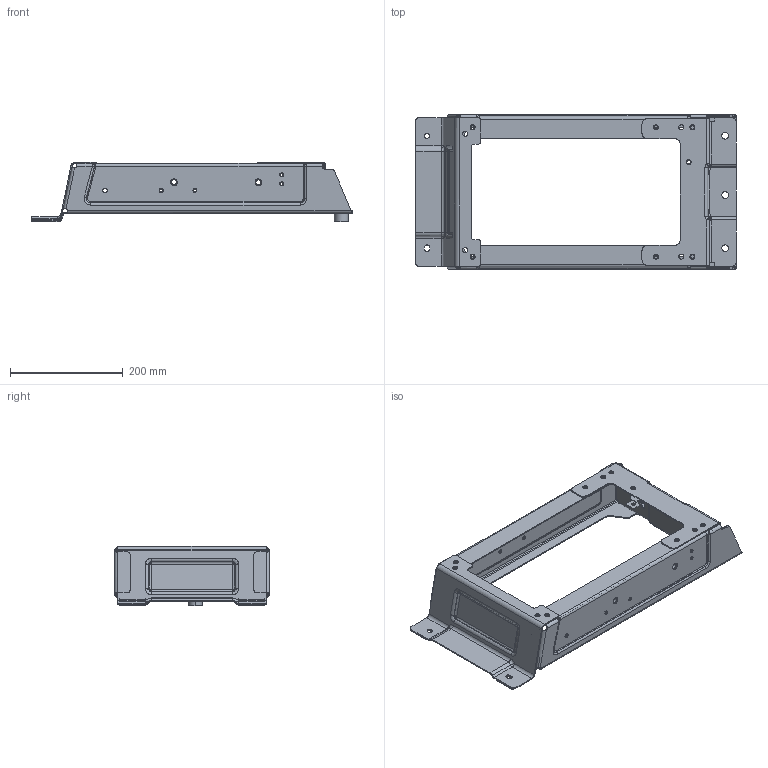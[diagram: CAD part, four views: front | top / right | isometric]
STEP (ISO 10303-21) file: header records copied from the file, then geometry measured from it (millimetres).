
FILE_DESCRIPTION(('CATIA V5 STEP Exchange'),'2;1');
FILE_NAME('F:\福田A6\17-新能源车\数据\变更后数据\SHT0017897-主驾驶底部支架焊接总成-20250319 - 副本\SHT0017897-主驾驶底部支架焊接总成-20250319\SHT0017897-20250319.stp','2025-03-20T07:48:14+00:00',('none'),('none'),'CATIA Version 5 Release 20 GA (IN-10)','CATIA V5 STEP AP203','none');
FILE_SCHEMA(('CONFIG_CONTROL_DESIGN'));
Products named in the file (1): SHT0017897-20250319
Bounding box: 569.84 x 275 x 105.5 mm (x, y, z)
Volume: 537262.8 mm3; surface area: 540750.2 mm2
Topology: 20 solids, 20 shells, 1253 faces, 3410 edges, 2169 vertices
Faces by surface type: cylinder 459, plane 349, bspline 178, cone 156, torus 57, sphere 48, extrusion 4, revolution 2
Entity records: 45006 total; most frequent: CARTESIAN_POINT 16687, ORIENTED_EDGE 6732, DIRECTION 4181, EDGE_CURVE 3366, VERTEX_POINT 2169, AXIS2_PLACEMENT_3D 2002, EDGE_LOOP 1399, VECTOR 1274
